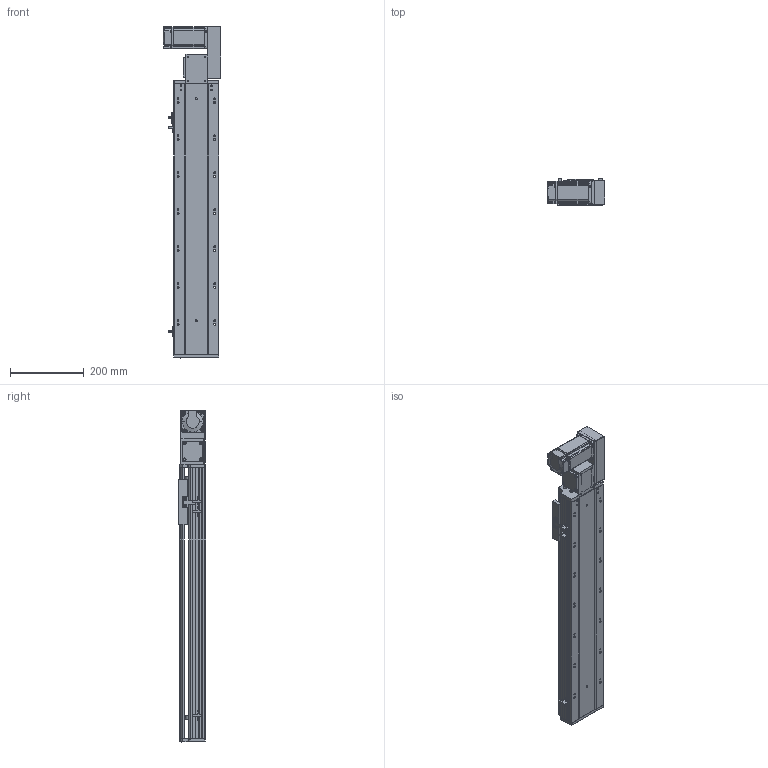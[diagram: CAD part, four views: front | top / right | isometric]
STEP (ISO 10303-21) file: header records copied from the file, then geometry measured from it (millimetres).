
FILE_DESCRIPTION (( 'STEP AP203' ), '1' );
FILE_NAME ('RY120-T-300-RK.SLDASM_500.step', '2021-03-01T03:52:45', ( '盈信电脑' ), ( '东莞市道滘镇水果街19号' ), 'SwSTEP 2.0', 'SolidWorks 2012', '' );
FILE_SCHEMA (( 'CONFIG_CONTROL_DESIGN' ));
Length unit declared in the file: millimetre
Products named in the file (17): RY120-T主同步轮轴承压盖; RY120-T萇儂欶; RY120-T蹟翐M4; RY120-T萇儂假蚾啣; 15; RY120-T翋肮祭盓傅釱; RY120-T翋肮祭謫裔啣; 滅袉蝶18-10; RY120-T肮祭湍揤踡輸1; RY120外置感应片(140共用）; RY120-T肮祭湍揤踡輸2; RY120肮祭湍臏賑輸; RY120綴裔啣; 覜茼ん672; RY120-T-300-RK倰第菁釱_500; RY120-T-300-RK倰第奻裔啣_500; RY120-T-300-RK.SLDASM_500
Assembly tree (22 placements, depth 2):
  RY120-T-300-RK.SLDASM_500
    RY120-T-300-RK倰第菁釱_500
    RY120-T-300-RK倰第奻裔啣_500
    RY120肮祭湍臏賑輸
    RY120綴裔啣
    覜茼ん672  x3
    RY120外置感应片(140共用）
    RY120-T肮祭湍揤踡輸1
    RY120-T肮祭湍揤踡輸2
    RY120-T翋肮祭盓傅釱
    滅袉蝶18-10  x2
    RY120-T翋肮祭謫裔啣
    15
    RY120-T萇儂假蚾啣
    RY120-T蹟翐M4  x4
    RY120-T萇儂欶
    RY120-T主同步轮轴承压盖
Bounding box: 155.5 x 73 x 897.5 mm (x, y, z)
Volume: 2519477.8 mm3; surface area: 917515.2 mm2
Topology: 23 solids, 23 shells, 2748 faces, 7500 edges, 4830 vertices
Faces by surface type: plane 1412, cylinder 1030, cone 217, bspline 89
Entity records: 87633 total; most frequent: CARTESIAN_POINT 22356, ORIENTED_EDGE 13488, DIRECTION 12702, EDGE_CURVE 6744, VERTEX_POINT 4417, VECTOR 4240, LINE 4240, AXIS2_PLACEMENT_3D 4231
